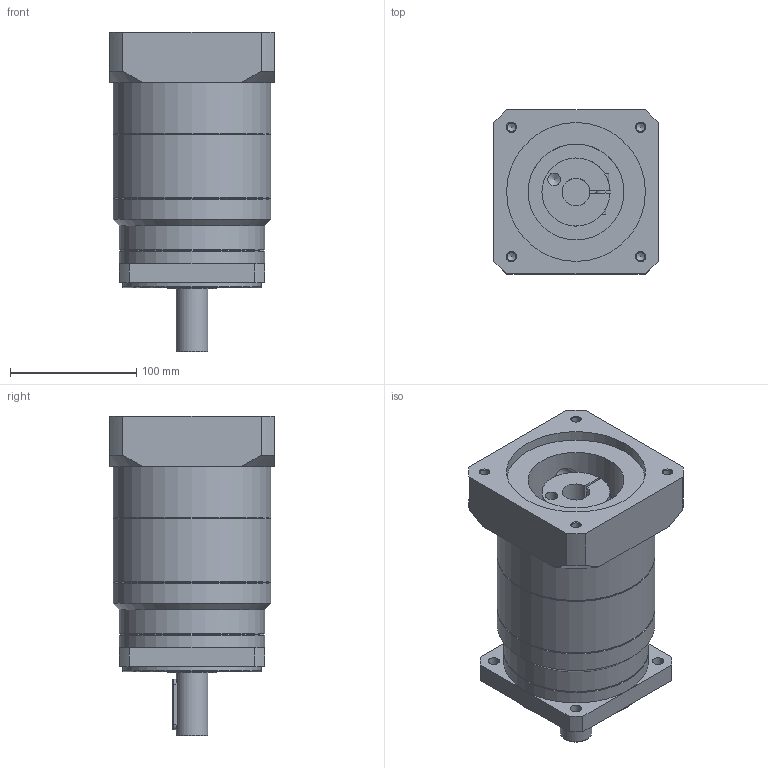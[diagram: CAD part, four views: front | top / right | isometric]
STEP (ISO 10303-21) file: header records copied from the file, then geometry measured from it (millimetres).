
FILE_DESCRIPTION(/* description */ ('STEP AP214'),/* implementation_level */ '2;1');
FILE_NAME(/* name */ 'C:\Users\m039\Desktop\精密行星标准图2019.5.20\行星外形图\B版精密行星外形图3D\GPBS\GPBS120-双节 外形图-∅22x73.5-∅110x8-∅145xM8-□130-.stp',/* time_stamp */ '2021-12-17T13:26:40+08:00',/* author */ ('m039'),/* organization */ ('Î¢ÈíÖÐ¹ú'),/* preprocessor_version */ 'ST-DEVELOPER v17.2',/* originating_system */ 'Autodesk Inventor 2019',/* authorisation */ '');
FILE_SCHEMA (('AUTOMOTIVE_DESIGN { 1 0 10303 214 3 1 1 }'));
Length unit declared in the file: millimetre
Products named in the file (1): GPBS120-双节 外形图-∅22x73.5-∅1
10x8-∅145xM8-□130
Bounding box: 130 x 130 x 253.5 mm (x, y, z)
Volume: 2283190.6 mm3; surface area: 167097.2 mm2
Topology: 1 solids, 1 shells, 112 faces, 314 edges, 217 vertices
Faces by surface type: plane 44, cylinder 38, cone 25, torus 5
Full cylindrical faces by diameter (mm): 6.8 x4, 8 x1, 8.5 x1, 9 x4, 10 x1, 13 x1, 14 x1, 22 x1, 25 x1, 39.5 x1, 40 x1, 76 x1, 110 x2, 115 x2, 125 x3
Entity records: 3853 total; most frequent: CARTESIAN_POINT 761, DIRECTION 688, ORIENTED_EDGE 616, EDGE_CURVE 308, AXIS2_PLACEMENT_3D 280, VERTEX_POINT 217, CIRCLE 167, EDGE_LOOP 143
